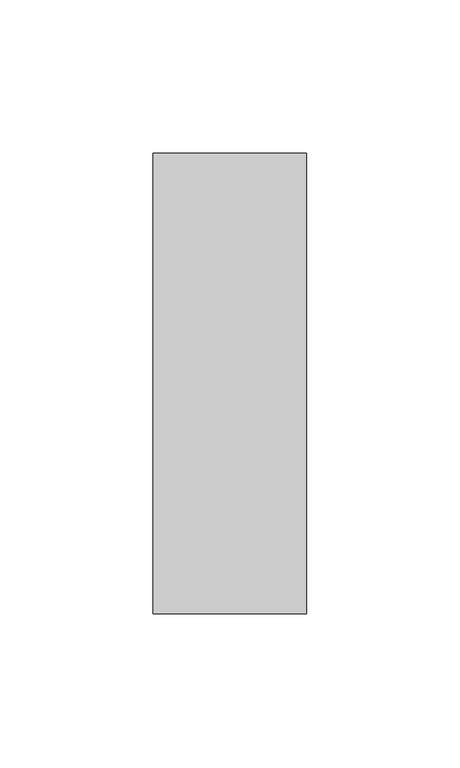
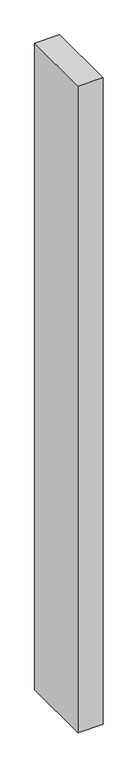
"""IFC4 building model written with IfcOpenShell, lengths in millimetres: member geometry, Прямоугольный импост : 50 x 150 мм."""

from ifc_helpers import new_model, si_unit, frame, origin, place, context, project, spatial, polyline, outline, extrude, source, transform, mapped, element, save


def member_6e289aab(model_context):
    return source(origin(), model_context, "Body", "SweptSolid", [
        extrude(outline(polyline([(25.0, 75.0), (25.0, -75.0), (-25.0, -75.0), (-25.0, 75.0), (25.0, 75.0)])), frame((0.0, 0.0, -1366.4816463), z_axis=(0.0, 0.0, 1.0), x_axis=(1.0, 0.0, 0.0)), (0.0, 0.0, 1.0), 1366.4816463),
    ])


if __name__ == "__main__":
    model = new_model("IFC4")
    model_context = context("Model", 3, world=origin())
    ifc_project = project(units=[si_unit("LENGTHUNIT", "METRE", prefix="MILLI")], contexts=[model_context])
    site = spatial("IfcSite", under=ifc_project)
    building = spatial("IfcBuilding", under=site)
    placement = place(None, origin())
    member_shape = member_6e289aab(model_context)
    element("IfcMember", 1, ObjectType="Прямоугольный импост : 50 x 150 мм", at=placement, inside=building, context=model_context, shape_type="MappedRepresentation", body=[
        mapped(member_shape, transform((0.0, 0.0, 0.0), x_axis=(1.0, 0.0, 0.0), y_axis=(0.0, 1.0, 0.0), z_axis=(0.0, 0.0, 1.0))),
    ])
    save(model, "model.ifc")
